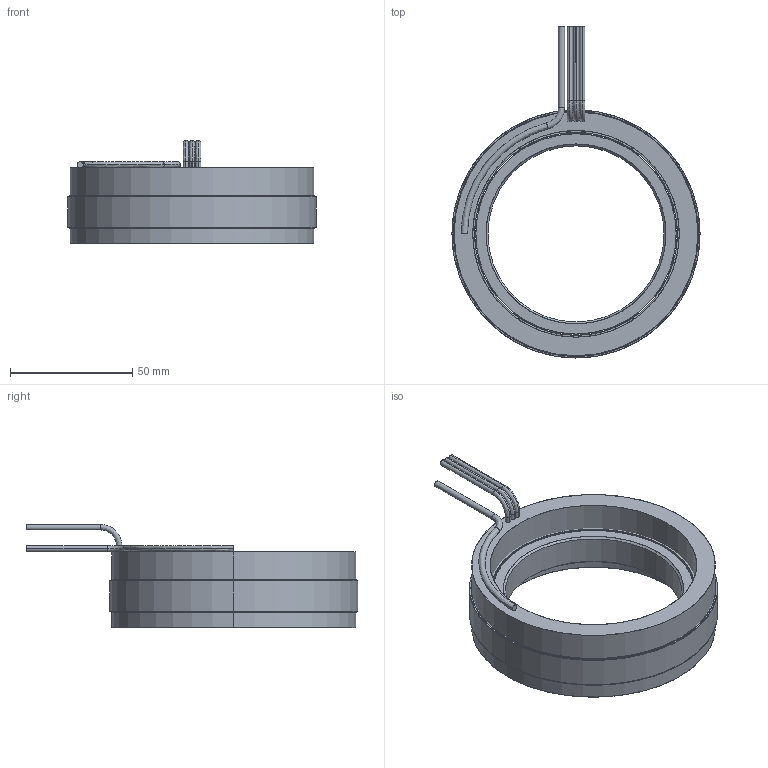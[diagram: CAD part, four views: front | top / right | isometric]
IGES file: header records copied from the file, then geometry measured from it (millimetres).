
Start section: SolidWorks IGES file using analytic representation for surfaces
Global section: file name: \\fs01.aveox.local\user documents\eng\My Documents\6100395-XX STATOR AND ROTOR SET, UT-4000-32P3, SENSORLESS\6100395-01.IGS; native system: SolidWorks 2016; preprocessor: SolidWorks 2016; author: eng; date: 201215.093322; units: inch
Bounding box: 101.6 x 135.89 x 42.29 mm (x, y, z)
Surface area: 66266.8 mm2 (no closed solid volume)
Topology: 0 solids, 0 shells, 75 faces, 2224 edges, 2224 vertices
Faces by surface type: revolution 46, bspline 29
